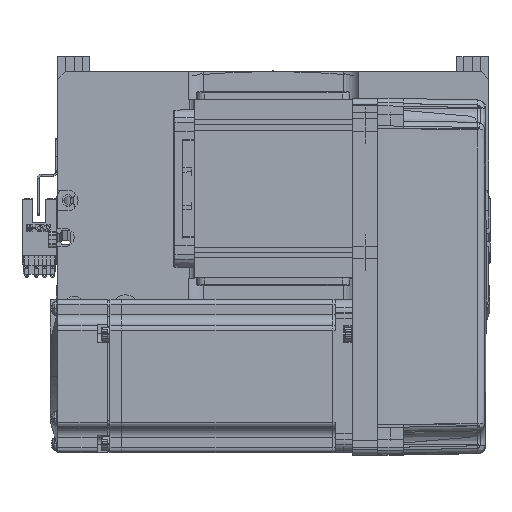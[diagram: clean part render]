
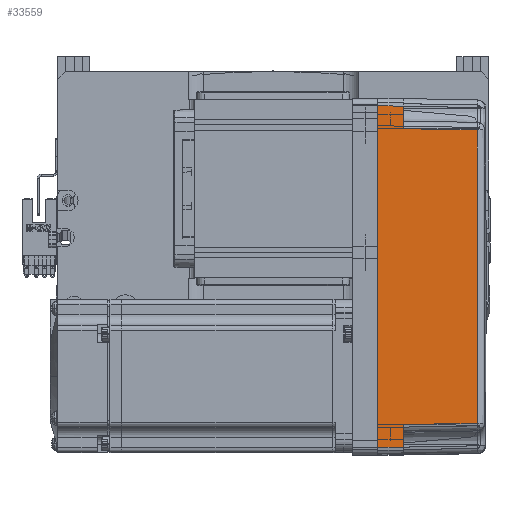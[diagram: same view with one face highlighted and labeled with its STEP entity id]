
A CAD part, top view. The second image highlights one B-rep face of the part: STEP entity #33559.
In plain terms, the highlighted planar face has unit normal (0.018, 0, 1) as drawn and (0, 1, 0.017) by its records, which use the part's own axes.
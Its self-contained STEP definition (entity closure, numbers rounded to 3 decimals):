
#705 = DIRECTION ( 'NONE',  ( 0.017, 0.017, -1. ) ) ;
#2341 = CARTESIAN_POINT ( 'NONE',  ( -58., 35.825, 10. ) ) ;
#3393 = ORIENTED_EDGE ( 'NONE', *, *, #41476, .T. ) ;
#4738 = CARTESIAN_POINT ( 'NONE',  ( 57.495, 35.32, 38.985 ) ) ;
#5813 = DIRECTION ( 'NONE',  ( 1., 0., 0. ) ) ;
#6453 = CARTESIAN_POINT ( 'NONE',  ( -57.495, 35.32, 38.985 ) ) ;
#7159 = VECTOR ( 'NONE', #705, 1000. ) ;
#10382 = VECTOR ( 'NONE', #57132, 1000. ) ;
#10584 = CARTESIAN_POINT ( 'NONE',  ( 58., 35.825, 10. ) ) ;
#10808 = VERTEX_POINT ( 'NONE', #10584 ) ;
#12240 = EDGE_LOOP ( 'NONE', ( #3393, #56389, #54433, #14745, #36144, #29565, #47613, #55086 ) ) ;
#13049 = CARTESIAN_POINT ( 'NONE',  ( 19.165, 35.316, 39.181 ) ) ;
#14139 = LINE ( 'NONE', #56235, #29744 ) ;
#14709 = FACE_OUTER_BOUND ( 'NONE', #12240, .T. ) ;
#14745 = ORIENTED_EDGE ( 'NONE', *, *, #56880, .T. ) ;
#17790 = CARTESIAN_POINT ( 'NONE',  ( -66.826, 35.825, 10. ) ) ;
#18280 = EDGE_CURVE ( 'NONE', #42158, #20445, #30562, .T. ) ;
#18648 = AXIS2_PLACEMENT_3D ( 'NONE', #59517, #44613, #38758 ) ;
#19865 = CARTESIAN_POINT ( 'NONE',  ( 70., 35.825, 10. ) ) ;
#20043 = VECTOR ( 'NONE', #64333, 1000. ) ;
#20445 = VERTEX_POINT ( 'NONE', #39274 ) ;
#20981 = LINE ( 'NONE', #35708, #10382 ) ;
#22615 = VERTEX_POINT ( 'NONE', #32470 ) ;
#26056 = LINE ( 'NONE', #37385, #7159 ) ;
#27496 = CARTESIAN_POINT ( 'NONE',  ( -19.165, 35.316, 39.181 ) ) ;
#29565 = ORIENTED_EDGE ( 'NONE', *, *, #65612, .T. ) ;
#29744 = VECTOR ( 'NONE', #51216, 1000. ) ;
#30562 = LINE ( 'NONE', #40415, #31377 ) ;
#30998 = DIRECTION ( 'NONE',  ( 0.017, -0.017, 1. ) ) ;
#31377 = VECTOR ( 'NONE', #5813, 1000. ) ;
#32079 = DIRECTION ( 'NONE',  ( 1., 0., 0. ) ) ;
#32221 = VECTOR ( 'NONE', #32079, 1000. ) ;
#32409 = VERTEX_POINT ( 'NONE', #17790 ) ;
#32470 = CARTESIAN_POINT ( 'NONE',  ( 66.826, 35.825, 10. ) ) ;
#33559 = ADVANCED_FACE ( 'NONE', ( #14709 ), #59946, .T. ) ;
#34826 = LINE ( 'NONE', #2341, #20043 ) ;
#35708 = CARTESIAN_POINT ( 'NONE',  ( 67.001, 36.001, -0.052 ) ) ;
#36144 = ORIENTED_EDGE ( 'NONE', *, *, #51903, .T. ) ;
#36386 = CARTESIAN_POINT ( 'NONE',  ( -67., 36., 0. ) ) ;
#37385 = CARTESIAN_POINT ( 'NONE',  ( 57.495, 35.32, 38.985 ) ) ;
#38758 = DIRECTION ( 'NONE',  ( 0., -0.017, 1. ) ) ;
#39274 = CARTESIAN_POINT ( 'NONE',  ( 67., 36., 0. ) ) ;
#39780 = EDGE_CURVE ( 'NONE', #55712, #49673, #34826, .T. ) ;
#40415 = CARTESIAN_POINT ( 'NONE',  ( 0., 36., 0. ) ) ;
#41476 = EDGE_CURVE ( 'NONE', #42158, #32409, #56647, .T. ) ;
#42158 = VERTEX_POINT ( 'NONE', #36386 ) ;
#43260 = CARTESIAN_POINT ( 'NONE',  ( -57.495, 35.32, 38.985 ) ) ;
#44613 = DIRECTION ( 'NONE',  ( 0., 1., 0.017 ) ) ;
#45122 = CARTESIAN_POINT ( 'NONE',  ( -67., 36., 0. ) ) ;
#47613 = ORIENTED_EDGE ( 'NONE', *, *, #58432, .F. ) ;
#49144 = CARTESIAN_POINT ( 'NONE',  ( -58., 35.825, 10. ) ) ;
#49331 = VECTOR ( 'NONE', #30998, 1000. ) ;
#49673 = VERTEX_POINT ( 'NONE', #6453 ) ;
#51216 = DIRECTION ( 'NONE',  ( 1., 0., 0. ) ) ;
#51903 = EDGE_CURVE ( 'NONE', #67074, #10808, #26056, .T. ) ;
#53786 = B_SPLINE_CURVE_WITH_KNOTS ( 'NONE', 3,
 ( #43260, #27496, #13049, #54937 ),
 .UNSPECIFIED., .F., .F.,
 ( 4, 4 ),
 ( 0., 1. ),
 .UNSPECIFIED. ) ;
#54433 = ORIENTED_EDGE ( 'NONE', *, *, #39780, .T. ) ;
#54937 = CARTESIAN_POINT ( 'NONE',  ( 57.495, 35.32, 38.985 ) ) ;
#55036 = EDGE_CURVE ( 'NONE', #32409, #55712, #62412, .T. ) ;
#55086 = ORIENTED_EDGE ( 'NONE', *, *, #18280, .F. ) ;
#55712 = VERTEX_POINT ( 'NONE', #49144 ) ;
#56235 = CARTESIAN_POINT ( 'NONE',  ( 70., 35.825, 10. ) ) ;
#56389 = ORIENTED_EDGE ( 'NONE', *, *, #55036, .T. ) ;
#56647 = LINE ( 'NONE', #45122, #49331 ) ;
#56880 = EDGE_CURVE ( 'NONE', #49673, #67074, #53786, .T. ) ;
#57132 = DIRECTION ( 'NONE',  ( -0.017, -0.017, 1. ) ) ;
#58432 = EDGE_CURVE ( 'NONE', #20445, #22615, #20981, .T. ) ;
#59517 = CARTESIAN_POINT ( 'NONE',  ( 70., 36., 0. ) ) ;
#59946 = PLANE ( 'NONE',  #18648 ) ;
#62412 = LINE ( 'NONE', #19865, #32221 ) ;
#64333 = DIRECTION ( 'NONE',  ( 0.017, -0.017, 1. ) ) ;
#65612 = EDGE_CURVE ( 'NONE', #10808, #22615, #14139, .T. ) ;
#67074 = VERTEX_POINT ( 'NONE', #4738 ) ;
